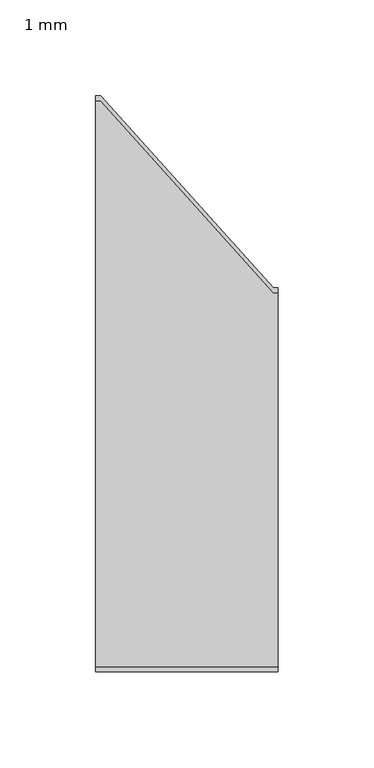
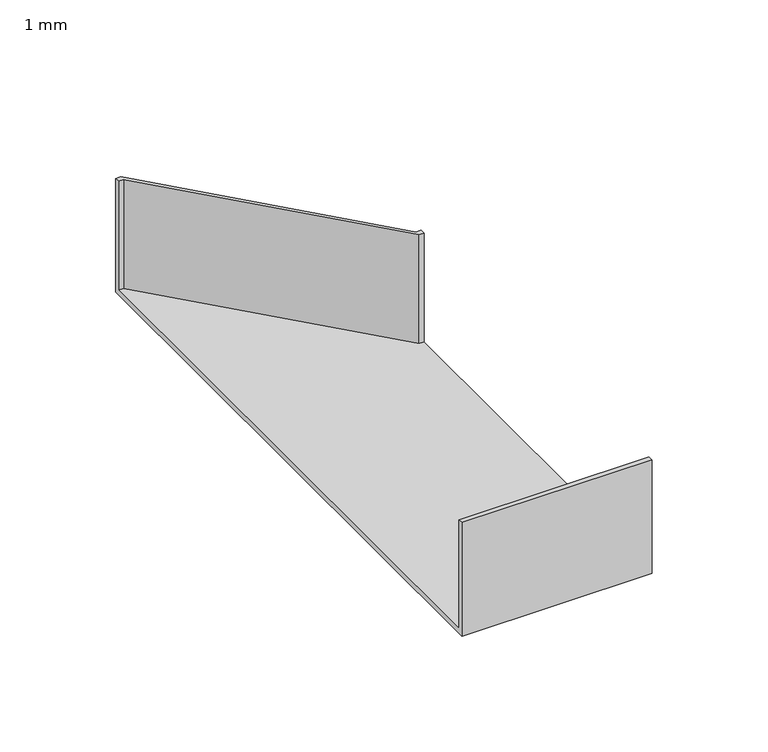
"""IFC4 building model written with IfcOpenShell, lengths in millimetres: cable carrier fitting geometry, BAKS_Redukcja E90 : 1 mm."""

from ifc_helpers import new_model, si_unit, origin, place, context, project, spatial, faceted_brep, source, transform, mapped, element, save


def cable_carrier_fitting_1_mm_c1197fce(model_context):
    return source(origin(), model_context, "Body", "Brep", [
        faceted_brep([(0.0, -150.0, -30.0), (0.0, -150.0, 30.0), (0.0, -147.46, 30.0), (0.0, -147.46, -27.46), (0.0, 147.46, -27.46), (0.0, 147.46, 30.0), (0.0, 150.0, 30.0), (0.0, 150.0, -30.0), (95.0, -150.0, -30.0), (95.0, 50.0, -30.0), (95.0, 50.0, 30.0), (95.0, 47.46, 30.0), (95.0, 47.46, -27.46), (95.0, -147.46, -27.46), (95.0, -147.46, 30.0), (95.0, -150.0, 30.0), (92.5, 47.46, -27.46), (2.5, 147.46, -27.46), (2.5, 147.46, 30.0), (92.5, 47.46, 30.0), (92.5, 50.0, 30.0), (2.5, 150.0, 30.0), (2.5, 150.0, -30.0), (92.5, 50.0, -30.0)], [[[0, 1, 2, 3, 4, 5, 6, 7]], [[8, 9, 10, 11, 12, 13, 14, 15]], [[1, 0, 8, 15]], [[2, 1, 15, 14]], [[3, 2, 14, 13]], [[4, 3, 13, 12, 16, 17]], [[5, 4, 17, 18]], [[6, 5, 18, 19, 11, 10, 20, 21]], [[7, 6, 21, 22]], [[8, 0, 7, 22, 23, 9]], [[12, 11, 19, 16]], [[10, 9, 23, 20]], [[23, 22, 21, 20]], [[19, 18, 17, 16]]]),
    ])


if __name__ == "__main__":
    model = new_model("IFC4")
    model_context = context("Model", 3, world=origin())
    ifc_project = project(units=[si_unit("LENGTHUNIT", "METRE", prefix="MILLI")], contexts=[model_context])
    site = spatial("IfcSite", under=ifc_project)
    building = spatial("IfcBuilding", under=site)
    placement = place(None, origin())
    cable_carrier_fitting_1_mm_shape = cable_carrier_fitting_1_mm_c1197fce(model_context)
    element("IfcCableCarrierFitting", 1, ObjectType="BAKS_Redukcja E90 : 1 mm", at=placement, inside=building, context=model_context, shape_type="MappedRepresentation", body=[
        mapped(cable_carrier_fitting_1_mm_shape, transform((0.0, 0.0, 0.0), x_axis=(1.0, 0.0, 0.0), y_axis=(0.0, 1.0, 0.0), z_axis=(0.0, 0.0, 1.0))),
    ])
    save(model, "model.ifc")
